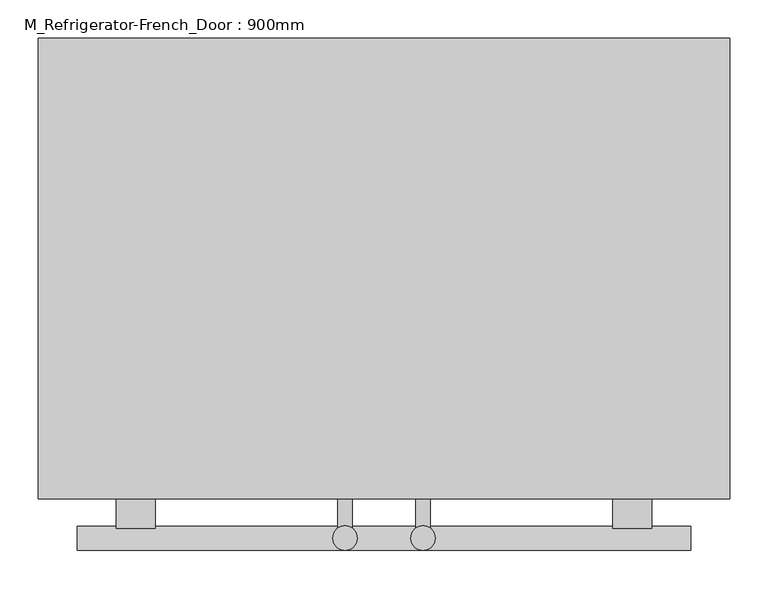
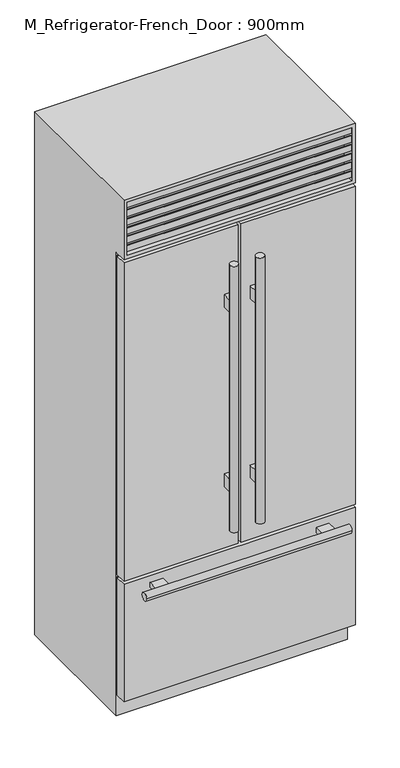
"""IFC4 building model written with IfcOpenShell, lengths in millimetres: proxy geometry, M_Refrigerator-French_Door : 900mm."""

from ifc_helpers import new_model, si_unit, frame, origin, place, context, project, spatial, polyline, circle_curve, ellipse_curve, outline, extrude, faceted_brep, source, transform, mapped, element, save
from ifc_brep_helpers import plane_surface, cylinder_surface, advanced_brep


def m_refrigerator_french_door_900mm_85fdf866(model_context):
    return source(origin(), model_context, "Body", "SolidModel", [
        extrude(outline(polyline([(-649.2, 1918.225), (-696.825, 1930.9860803), (-696.825, 1956.3860803), (-693.65, 1956.3860803), (-693.65, 1933.5368938), (-649.2, 1921.6265522), (-649.2, 1918.225)])), frame((-437.3, 0.0, 0.0), z_axis=(1.0, 0.0, 0.0), x_axis=(0.0, 1.0, 0.0)), (0.0, 0.0, 1.0), 874.6),
        extrude(outline(polyline([(-649.2, 1954.4077839), (-696.825, 1967.1688642), (-696.825, 1992.5688642), (-693.65, 1992.5688642), (-693.65, 1969.7196777), (-649.2, 1957.8093361), (-649.2, 1954.4077839)])), frame((-437.3, 0.0, 0.0), z_axis=(1.0, 0.0, 0.0), x_axis=(0.0, 1.0, 0.0)), (0.0, 0.0, 1.0), 874.6),
        extrude(outline(polyline([(-649.2, 1990.5905679), (-696.825, 2003.3516482), (-696.825, 2028.7516482), (-693.65, 2028.7516482), (-693.65, 2005.9024616), (-649.2, 1993.99212), (-649.2, 1990.5905679)])), frame((-437.3, 0.0, 0.0), z_axis=(1.0, 0.0, 0.0), x_axis=(0.0, 1.0, 0.0)), (0.0, 0.0, 1.0), 874.6),
        extrude(outline(polyline([(-649.2, 2026.7733518), (-696.825, 2039.5344321), (-696.825, 2064.9344321), (-693.65, 2064.9344321), (-693.65, 2042.0852456), (-649.2, 2030.174904), (-649.2, 2026.7733518)])), frame((-437.3, 0.0, 0.0), z_axis=(1.0, 0.0, 0.0), x_axis=(0.0, 1.0, 0.0)), (0.0, 0.0, 1.0), 874.6),
        extrude(outline(polyline([(-649.2, 2062.9561358), (-696.825, 2075.7172161), (-696.825, 2101.1172161), (-693.65, 2101.1172161), (-693.65, 2078.2680295), (-649.2, 2066.3576879), (-649.2, 2062.9561358)])), frame((-437.3, 0.0, 0.0), z_axis=(1.0, 0.0, 0.0), x_axis=(0.0, 1.0, 0.0)), (0.0, 0.0, 1.0), 874.6),
        extrude(outline(polyline([(-649.2, 2099.1389197), (-696.825, 2111.9), (-696.825, 2137.3), (-693.65, 2137.3), (-693.65, 2114.4508135), (-649.2, 2102.5404719), (-649.2, 2099.1389197)])), frame((-437.3, 0.0, 0.0), z_axis=(1.0, 0.0, 0.0), x_axis=(0.0, 1.0, 0.0)), (0.0, 0.0, 1.0), 874.6),
        faceted_brep([(450.0, -700.0, 2150.0), (-450.0, -700.0, 2150.0), (-450.0, -700.0, 1905.525), (450.0, -700.0, 1905.525), (437.3, -700.0, 2137.3), (437.3, -700.0, 1918.225), (-437.3, -700.0, 1918.225), (-437.3, -700.0, 2137.3), (450.0, -100.0, 2150.0), (-450.0, -100.0, 2150.0), (-450.0, -100.0, 0.0), (-450.0, -649.2, 0.0), (-450.0, -649.2, 1905.525), (450.0, -649.2, 1905.525), (450.0, -649.2, 0.0), (450.0, -100.0, 0.0), (-437.3, -649.2, 2137.3), (437.3, -649.2, 2137.3), (-437.3, -649.2, 1918.225), (437.3, -649.2, 1918.225)], [[[0, 1, 2, 3], [4, 5, 6, 7]], [[1, 0, 8, 9]], [[2, 1, 9, 10, 11, 12]], [[3, 2, 12, 13]], [[8, 0, 3, 13, 14, 15]], [[4, 7, 16, 17]], [[7, 6, 18, 16]], [[6, 5, 19, 18]], [[5, 4, 17, 19]], [[15, 14, 11, 10]], [[9, 8, 15, 10]], [[17, 16, 18, 19]], [[11, 14, 13, 12]]]),
        extrude(outline(polyline([(-450.0, -655.55), (-6.35, -655.55), (-6.35, -700.0), (-450.0, -700.0), (-450.0, -655.55)])), frame((0.0, 0.0, 584.2), z_axis=(0.0, 0.0, 1.0), x_axis=(1.0, 0.0, 0.0)), (0.0, 0.0, 1.0), 1308.625),
        extrude(outline(polyline([(6.35, -655.55), (450.0, -655.55), (450.0, -700.0), (6.35, -700.0), (6.35, -655.55)])), frame((0.0, 0.0, 584.2), z_axis=(0.0, 0.0, 1.0), x_axis=(1.0, 0.0, 0.0)), (0.0, 0.0, 1.0), 1308.625),
        extrude(outline(polyline([(-450.0, -655.55), (450.0, -655.55), (450.0, -700.0), (-450.0, -700.0), (-450.0, -655.55)])), frame((0.0, 0.0, 88.9), z_axis=(0.0, 0.0, 1.0), x_axis=(1.0, 0.0, 0.0)), (0.0, 0.0, 1.0), 482.6),
        advanced_brep(
        [(-41.275, -700.0, 1626.125), (-41.275, -700.0, 1575.325), (-60.325, -700.0, 1575.325), (-60.325, -700.0, 1626.125), (-41.275, -700.0, 889.0), (-41.275, -700.0, 838.2), (-60.325, -700.0, 838.2), (-60.325, -700.0, 889.0), (-41.275, -738.4741958, 1626.125), (-41.275, -738.4741958, 1575.325), (-60.325, -738.4741958, 1575.325), (-60.325, -738.4741958, 1626.125), (-41.275, -738.4741958, 889.0), (-41.275, -738.4741958, 838.2), (-60.325, -738.4741958, 838.2), (-60.325, -738.4741958, 889.0), (-66.675, -751.1741958, 1778.525), (-34.925, -751.1741958, 1778.525), (-66.675, -751.1741958, 685.8), (-34.925, -751.1741958, 685.8)],
        [
            (0, 1),
            (1, 2),
            (2, 3),
            (3, 0),
            (4, 5),
            (5, 6),
            (6, 7),
            (7, 4),
            (0, 8),
            (8, 9),
            (9, 1),
            (9, 10, circle_curve(frame((-50.8, -751.1741958, 1575.325), z_axis=(0.0, 0.0, 1.0), x_axis=(1.0, 0.0, 0.0)), 15.875)),
            (10, 2),
            (10, 11),
            (11, 3),
            (11, 8, circle_curve(frame((-50.8, -751.1741958, 1626.125), z_axis=(0.0, 0.0, -1.0), x_axis=(1.0, 0.0, 0.0)), 15.875)),
            (4, 12),
            (12, 13),
            (13, 5),
            (13, 14, circle_curve(frame((-50.8, -751.1741958, 838.2), z_axis=(0.0, 0.0, 1.0), x_axis=(1.0, 0.0, 0.0)), 15.875)),
            (14, 6),
            (14, 15),
            (15, 7),
            (15, 12, circle_curve(frame((-50.8, -751.1741958, 889.0), z_axis=(0.0, 0.0, -1.0), x_axis=(1.0, 0.0, 0.0)), 15.875)),
            (16, 17, circle_curve(frame((-50.8, -751.1741958, 1778.525), z_axis=(0.0, 0.0, 1.0), x_axis=(1.0, 0.0, 0.0)), 15.875)),
            (17, 16, circle_curve(frame((-50.8, -751.1741958, 1778.525), z_axis=(0.0, 0.0, 1.0), x_axis=(1.0, 0.0, 0.0)), 15.875)),
            (18, 19, circle_curve(frame((-50.8, -751.1741958, 685.8), z_axis=(0.0, 0.0, -1.0), x_axis=(1.0, 0.0, 0.0)), 15.875)),
            (19, 18, circle_curve(frame((-50.8, -751.1741958, 685.8), z_axis=(0.0, 0.0, -1.0), x_axis=(1.0, 0.0, 0.0)), 15.875)),
            (16, 18),
            (19, 17),
        ],
        [
            plane_surface(frame((-41.275, -700.0, 1626.125), z_axis=(0.0, 1.0, 0.0), x_axis=(0.0, 0.0, -1.0))),
            plane_surface(frame((-41.275, -700.0, 1626.125), z_axis=(1.0, 0.0, 0.0), x_axis=(0.0, -1.0, 0.0))),
            plane_surface(frame((-41.275, -700.0, 1575.325), z_axis=(0.0, 0.0, -1.0), x_axis=(0.0, -1.0, 0.0))),
            plane_surface(frame((-60.325, -700.0, 1575.325), z_axis=(-1.0, 0.0, 0.0), x_axis=(0.0, -1.0, 0.0))),
            plane_surface(frame((-60.325, -700.0, 1626.125), z_axis=(0.0, 0.0, 1.0), x_axis=(0.0, -1.0, 0.0))),
            plane_surface(frame((-41.275, -700.0, 889.0), z_axis=(1.0, 0.0, 0.0), x_axis=(0.0, -1.0, 0.0))),
            plane_surface(frame((-41.275, -700.0, 838.2), z_axis=(0.0, 0.0, -1.0), x_axis=(0.0, -1.0, 0.0))),
            plane_surface(frame((-60.325, -700.0, 838.2), z_axis=(-1.0, 0.0, 0.0), x_axis=(0.0, -1.0, 0.0))),
            plane_surface(frame((-60.325, -700.0, 889.0), z_axis=(0.0, 0.0, 1.0), x_axis=(0.0, -1.0, 0.0))),
            plane_surface(frame((-34.925, -751.1741958, 1778.525), z_axis=(0.0, 0.0, 1.0), x_axis=(0.0, 1.0, 0.0))),
            plane_surface(frame((-34.925, -751.1741958, 685.8), z_axis=(0.0, 0.0, -1.0), x_axis=(0.0, -1.0, 0.0))),
            cylinder_surface(frame((-50.8, -751.1741958, 685.8), z_axis=(0.0, 0.0, 1.0), x_axis=(1.0, 0.0, 0.0)), 15.875),
        ],
        [
            (0, [[1, 2, 3, 4]]),
            (0, [[5, 6, 7, 8]]),
            (1, [[-1, 9, 10, 11]]),
            (2, [[-2, -11, 12, 13]]),
            (3, [[-3, -13, 14, 15]]),
            (4, [[-4, -15, 16, -9]]),
            (5, [[-5, 17, 18, 19]]),
            (6, [[-6, -19, 20, 21]]),
            (7, [[-7, -21, 22, 23]]),
            (8, [[-8, -23, 24, -17]]),
            (9, [[25, 26]]),
            (10, [[27, 28]]),
            (11, [[-25, 29, -28, 30]]),
            (11, [[-26, -30, -27, -29], [-10, -16, -14, -12], [-18, -24, -22, -20]]),
        ],
    ),
        advanced_brep(
        [(34.925, -751.1741958, 1778.525), (66.675, -751.1741958, 1778.525), (34.925, -751.1741958, 685.8), (66.675, -751.1741958, 685.8), (60.325, -738.4741958, 1575.325), (60.325, -738.4741958, 1626.125), (41.275, -738.4741958, 1626.125), (41.275, -738.4741958, 1575.325), (60.325, -738.4741958, 838.2), (60.325, -738.4741958, 889.0), (41.275, -738.4741958, 889.0), (41.275, -738.4741958, 838.2), (60.325, -700.0, 1626.125), (60.325, -700.0, 1575.325), (41.275, -700.0, 1575.325), (41.275, -700.0, 1626.125), (60.325, -700.0, 889.0), (60.325, -700.0, 838.2), (41.275, -700.0, 838.2), (41.275, -700.0, 889.0)],
        [
            (0, 1, circle_curve(frame((50.8, -751.1741958, 1778.525), z_axis=(0.0, 0.0, 1.0), x_axis=(1.0, 0.0, 0.0)), 15.875)),
            (1, 0, circle_curve(frame((50.8, -751.1741958, 1778.525), z_axis=(0.0, 0.0, 1.0), x_axis=(1.0, 0.0, 0.0)), 15.875)),
            (2, 3, circle_curve(frame((50.8, -751.1741958, 685.8), z_axis=(0.0, 0.0, -1.0), x_axis=(1.0, 0.0, 0.0)), 15.875)),
            (3, 2, circle_curve(frame((50.8, -751.1741958, 685.8), z_axis=(0.0, 0.0, -1.0), x_axis=(1.0, 0.0, 0.0)), 15.875)),
            (0, 2),
            (3, 1),
            (4, 5),
            (5, 6, circle_curve(frame((50.8, -751.1741958, 1626.125), z_axis=(0.0, 0.0, 1.0), x_axis=(1.0, 0.0, 0.0)), 15.875)),
            (6, 7),
            (7, 4, circle_curve(frame((50.8, -751.1741958, 1575.325), z_axis=(0.0, 0.0, -1.0), x_axis=(1.0, 0.0, 0.0)), 15.875)),
            (8, 9),
            (9, 10, circle_curve(frame((50.8, -751.1741958, 889.0), z_axis=(0.0, 0.0, 1.0), x_axis=(1.0, 0.0, 0.0)), 15.875)),
            (10, 11),
            (11, 8, circle_curve(frame((50.8, -751.1741958, 838.2), z_axis=(0.0, 0.0, -1.0), x_axis=(1.0, 0.0, 0.0)), 15.875)),
            (12, 13),
            (13, 14),
            (14, 15),
            (15, 12),
            (16, 17),
            (17, 18),
            (18, 19),
            (19, 16),
            (12, 5),
            (4, 13),
            (7, 14),
            (6, 15),
            (16, 9),
            (8, 17),
            (11, 18),
            (10, 19),
        ],
        [
            plane_surface(frame((66.675, -751.1741958, 1778.525), z_axis=(0.0, 0.0, 1.0), x_axis=(0.0, 1.0, 0.0))),
            plane_surface(frame((66.675, -751.1741958, 685.8), z_axis=(0.0, 0.0, -1.0), x_axis=(0.0, -1.0, 0.0))),
            cylinder_surface(frame((50.8, -751.1741958, 685.8), z_axis=(0.0, 0.0, 1.0), x_axis=(1.0, 0.0, 0.0)), 15.875),
            plane_surface(frame((60.325, -700.0, 1626.125), z_axis=(0.0, 1.0, 0.0), x_axis=(0.0, 0.0, -1.0))),
            plane_surface(frame((60.325, -700.0, 1626.125), z_axis=(1.0, 0.0, 0.0), x_axis=(0.0, -1.0, 0.0))),
            plane_surface(frame((60.325, -700.0, 1575.325), z_axis=(0.0, 0.0, -1.0), x_axis=(0.0, -1.0, 0.0))),
            plane_surface(frame((41.275, -700.0, 1575.325), z_axis=(-1.0, 0.0, 0.0), x_axis=(0.0, -1.0, 0.0))),
            plane_surface(frame((41.275, -700.0, 1626.125), z_axis=(0.0, 0.0, 1.0), x_axis=(0.0, -1.0, 0.0))),
            plane_surface(frame((60.325, -700.0, 889.0), z_axis=(1.0, 0.0, 0.0), x_axis=(0.0, -1.0, 0.0))),
            plane_surface(frame((60.325, -700.0, 838.2), z_axis=(0.0, 0.0, -1.0), x_axis=(0.0, -1.0, 0.0))),
            plane_surface(frame((41.275, -700.0, 838.2), z_axis=(-1.0, 0.0, 0.0), x_axis=(0.0, -1.0, 0.0))),
            plane_surface(frame((41.275, -700.0, 889.0), z_axis=(0.0, 0.0, 1.0), x_axis=(0.0, -1.0, 0.0))),
        ],
        [
            (0, [[1, 2]]),
            (1, [[3, 4]]),
            (2, [[-1, 5, -4, 6]]),
            (2, [[-2, -6, -3, -5], [7, 8, 9, 10], [11, 12, 13, 14]]),
            (3, [[15, 16, 17, 18]]),
            (3, [[19, 20, 21, 22]]),
            (4, [[-15, 23, -7, 24]]),
            (5, [[-16, -24, -10, 25]]),
            (6, [[-17, -25, -9, 26]]),
            (7, [[-18, -26, -8, -23]]),
            (8, [[-19, 27, -11, 28]]),
            (9, [[-20, -28, -14, 29]]),
            (10, [[-21, -29, -13, 30]]),
            (11, [[-22, -30, -12, -27]]),
        ],
    ),
        advanced_brep(
        [(-297.6, -700.0, 542.925), (-297.6, -700.0, 523.875), (-348.4, -700.0, 523.875), (-348.4, -700.0, 542.925), (297.6, -700.0, 542.925), (348.4, -700.0, 542.925), (348.4, -700.0, 523.875), (297.6, -700.0, 523.875), (-297.6, -738.4741958, 542.925), (-297.6, -735.2991958, 533.4), (-297.6, -738.4741958, 523.875), (-348.4, -738.4741958, 523.875), (-348.4, -735.2991958, 533.4), (-348.4, -738.4741958, 542.925), (297.6, -738.4741958, 542.925), (348.4, -738.4741958, 542.925), (348.4, -735.2991958, 533.4), (348.4, -738.4741958, 523.875), (297.6, -738.4741958, 523.875), (297.6, -735.2991958, 533.4), (399.2, -767.0491958, 533.4), (399.2, -735.2991958, 533.4), (-399.2, -767.0491958, 533.4), (-399.2, -735.2991958, 533.4)],
        [
            (0, 1),
            (1, 2),
            (2, 3),
            (3, 0),
            (4, 5),
            (5, 6),
            (6, 7),
            (7, 4),
            (0, 8),
            (8, 9, circle_curve(frame((-297.6, -751.1741958, 533.4), z_axis=(-1.0, 0.0, 0.0), x_axis=(0.0, 1.0, 0.0)), 15.875)),
            (9, 10, circle_curve(frame((-297.6, -751.1741958, 533.4), z_axis=(-1.0, 0.0, 0.0), x_axis=(0.0, 1.0, 0.0)), 15.875)),
            (10, 1),
            (10, 11),
            (11, 2),
            (11, 12, circle_curve(frame((-348.4, -751.1741958, 533.4), z_axis=(1.0, 0.0, 0.0), x_axis=(0.0, 1.0, 0.0)), 15.875)),
            (12, 13, circle_curve(frame((-348.4, -751.1741958, 533.4), z_axis=(1.0, 0.0, 0.0), x_axis=(0.0, 1.0, 0.0)), 15.875)),
            (13, 3),
            (13, 8),
            (4, 14),
            (14, 15),
            (15, 5),
            (15, 16, circle_curve(frame((348.4, -751.1741958, 533.4), z_axis=(-1.0, 0.0, 0.0), x_axis=(0.0, 1.0, 0.0)), 15.875)),
            (16, 17, circle_curve(frame((348.4, -751.1741958, 533.4), z_axis=(-1.0, 0.0, 0.0), x_axis=(0.0, 1.0, 0.0)), 15.875)),
            (17, 6),
            (17, 18),
            (18, 7),
            (18, 19, circle_curve(frame((297.6, -751.1741958, 533.4), z_axis=(1.0, 0.0, 0.0), x_axis=(0.0, 1.0, 0.0)), 15.875)),
            (19, 14, circle_curve(frame((297.6, -751.1741958, 533.4), z_axis=(1.0, 0.0, 0.0), x_axis=(0.0, 1.0, 0.0)), 15.875)),
            (20, 21, circle_curve(frame((399.2, -751.1741958, 533.4), z_axis=(1.0, 0.0, 0.0), x_axis=(0.0, 1.0, 0.0)), 15.875)),
            (21, 20, circle_curve(frame((399.2, -751.1741958, 533.4), z_axis=(1.0, 0.0, 0.0), x_axis=(0.0, 1.0, 0.0)), 15.875)),
            (22, 23, circle_curve(frame((-399.2, -751.1741958, 533.4), z_axis=(-1.0, 0.0, 0.0), x_axis=(0.0, 1.0, 0.0)), 15.875)),
            (23, 22, circle_curve(frame((-399.2, -751.1741958, 533.4), z_axis=(-1.0, 0.0, 0.0), x_axis=(0.0, 1.0, 0.0)), 15.875)),
            (20, 22),
            (23, 12),
            (9, 19),
            (16, 21),
        ],
        [
            plane_surface(frame((-297.6, -700.0, 542.925), z_axis=(0.0, 1.0, 0.0), x_axis=(0.0, 0.0, -1.0))),
            plane_surface(frame((-297.6, -700.0, 542.925), z_axis=(1.0, 0.0, 0.0), x_axis=(0.0, -1.0, 0.0))),
            plane_surface(frame((-297.6, -700.0, 523.875), z_axis=(0.0, 0.0, -1.0), x_axis=(0.0, -1.0, 0.0))),
            plane_surface(frame((-348.4, -700.0, 523.875), z_axis=(-1.0, 0.0, 0.0), x_axis=(0.0, -1.0, 0.0))),
            plane_surface(frame((-348.4, -700.0, 542.925), z_axis=(0.0, 0.0, 1.0), x_axis=(0.0, -1.0, 0.0))),
            plane_surface(frame((297.6, -700.0, 542.925), z_axis=(0.0, 0.0, 1.0), x_axis=(0.0, -1.0, 0.0))),
            plane_surface(frame((348.4, -700.0, 542.925), z_axis=(1.0, 0.0, 0.0), x_axis=(0.0, -1.0, 0.0))),
            plane_surface(frame((348.4, -700.0, 523.875), z_axis=(0.0, 0.0, -1.0), x_axis=(0.0, -1.0, 0.0))),
            plane_surface(frame((297.6, -700.0, 523.875), z_axis=(-1.0, 0.0, 0.0), x_axis=(0.0, -1.0, 0.0))),
            plane_surface(frame((399.2, -735.2991958, 533.4), z_axis=(1.0, 0.0, 0.0), x_axis=(0.0, 0.0, 1.0))),
            plane_surface(frame((-399.2, -735.2991958, 533.4), z_axis=(-1.0, 0.0, 0.0), x_axis=(0.0, 0.0, -1.0))),
            cylinder_surface(frame((-399.2, -751.1741958, 533.4), z_axis=(1.0, 0.0, 0.0), x_axis=(0.0, 1.0, 0.0)), 15.875),
        ],
        [
            (0, [[1, 2, 3, 4]]),
            (0, [[5, 6, 7, 8]]),
            (1, [[-1, 9, 10, 11, 12]]),
            (2, [[-2, -12, 13, 14]]),
            (3, [[-3, -14, 15, 16, 17]]),
            (4, [[-4, -17, 18, -9]]),
            (5, [[-5, 19, 20, 21]]),
            (6, [[-6, -21, 22, 23, 24]]),
            (7, [[-7, -24, 25, 26]]),
            (8, [[-8, -26, 27, 28, -19]]),
            (9, [[29, 30]]),
            (10, [[31, 32]]),
            (11, [[-29, 33, -32, 34, -15, -13, -11, 35, -27, -25, -23, 36]]),
            (11, [[-30, -36, -22, -20, -28, -35, -10, -18, -16, -34, -31, -33]]),
        ],
    ),
        advanced_brep(
        [(-443.65, -649.2, 1886.475), (-443.65, -655.55, 1886.475), (-443.65, -655.55, 590.55), (-443.65, -649.2, 590.55), (-446.825, -655.55, 1889.65), (-446.825, -649.2, 1889.65), (-446.825, -649.2, 587.375), (-446.825, -655.55, 587.375), (-12.7, -655.55, 590.55), (-12.7, -649.2, 590.55), (-9.525, -649.2, 587.375), (-9.525, -655.55, 587.375), (-12.7, -655.55, 1886.475), (-12.7, -649.2, 1886.475), (-9.525, -649.2, 1889.65), (-9.525, -655.55, 1889.65)],
        [
            (0, 1),
            (1, 2),
            (2, 3),
            (3, 0),
            (4, 5, ellipse_curve(frame((-446.825, -652.375, 1889.65), z_axis=(-0.7071067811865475, 0.0, -0.7071067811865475), x_axis=(-0.7071067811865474, 0.0, 0.7071067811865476)), 4.4901281, 3.175)),
            (5, 6),
            (6, 7, ellipse_curve(frame((-446.825, -652.375, 587.375), z_axis=(-0.7071067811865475, 0.0, 0.7071067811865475), x_axis=(0.7071067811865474, 0.0, 0.7071067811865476)), 4.4901281, 3.175)),
            (7, 4),
            (2, 8),
            (8, 9),
            (9, 3),
            (6, 10),
            (10, 11, ellipse_curve(frame((-9.525, -652.375, 587.375), z_axis=(-0.7071067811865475, 0.0, -0.7071067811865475), x_axis=(-0.7071067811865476, 0.0, 0.7071067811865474)), 4.4901281, 3.175)),
            (11, 7),
            (8, 12),
            (12, 13),
            (13, 9),
            (10, 14),
            (14, 15, ellipse_curve(frame((-9.525, -652.375, 1889.65), z_axis=(0.7071067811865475, 0.0, -0.7071067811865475), x_axis=(-0.7071067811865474, 0.0, -0.7071067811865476)), 4.4901281, 3.175)),
            (15, 11),
            (12, 1),
            (0, 13),
            (5, 14),
            (4, 15),
        ],
        [
            plane_surface(frame((-443.65, -655.55, 1886.475), z_axis=(1.0, 0.0, 0.0), x_axis=(0.0, 0.0, -1.0))),
            cylinder_surface(frame((-446.825, -652.375, 1892.825), z_axis=(0.0, 0.0, 1.0), x_axis=(0.0, -1.0, 0.0)), 3.175),
            plane_surface(frame((-443.65, -655.55, 590.55), z_axis=(0.0, 0.0, 1.0), x_axis=(1.0, 0.0, 0.0))),
            cylinder_surface(frame((-450.0, -652.375, 587.375), z_axis=(-1.0, 0.0, 0.0), x_axis=(0.0, -1.0, 0.0)), 3.175),
            plane_surface(frame((-12.7, -655.55, 590.55), z_axis=(-1.0, 0.0, 0.0), x_axis=(0.0, 0.0, 1.0))),
            cylinder_surface(frame((-9.525, -652.375, 584.2), z_axis=(0.0, 0.0, -1.0), x_axis=(0.0, -1.0, 0.0)), 3.175),
            plane_surface(frame((-12.7, -655.55, 1886.475), z_axis=(0.0, 0.0, -1.0), x_axis=(-1.0, 0.0, 0.0))),
            plane_surface(frame((-12.7, -649.2, 1886.475), z_axis=(0.0, 1.0, 0.0), x_axis=(-1.0, 0.0, 0.0))),
            cylinder_surface(frame((-6.35, -652.375, 1889.65), z_axis=(1.0, 0.0, 0.0), x_axis=(0.0, -1.0, 0.0)), 3.175),
            plane_surface(frame((-9.525, -655.55, 1889.65), z_axis=(0.0, -1.0, 0.0), x_axis=(-1.0, 0.0, 0.0))),
        ],
        [
            (0, [[1, 2, 3, 4]]),
            (1, [[5, 6, 7, 8]]),
            (2, [[-3, 9, 10, 11]]),
            (3, [[-7, 12, 13, 14]]),
            (4, [[-10, 15, 16, 17]]),
            (5, [[-13, 18, 19, 20]]),
            (6, [[-16, 21, -1, 22]]),
            (7, [[23, -18, -12, -6], [-11, -17, -22, -4]]),
            (8, [[-19, -23, -5, 24]]),
            (9, [[-14, -20, -24, -8], [-21, -15, -9, -2]]),
        ],
    ),
        advanced_brep(
        [(12.7, -649.2, 1886.475), (12.7, -655.55, 1886.475), (12.7, -655.55, 590.55), (12.7, -649.2, 590.55), (9.525, -655.55, 1889.65), (9.525, -649.2, 1889.65), (9.525, -649.2, 587.375), (9.525, -655.55, 587.375), (443.65, -655.55, 590.55), (443.65, -649.2, 590.55), (446.825, -649.2, 587.375), (446.825, -655.55, 587.375), (443.65, -655.55, 1886.475), (443.65, -649.2, 1886.475), (446.825, -649.2, 1889.65), (446.825, -655.55, 1889.65)],
        [
            (0, 1),
            (1, 2),
            (2, 3),
            (3, 0),
            (4, 5, ellipse_curve(frame((9.525, -652.375, 1889.65), z_axis=(-0.7071067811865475, 0.0, -0.7071067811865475), x_axis=(-0.7071067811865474, 0.0, 0.7071067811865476)), 4.4901281, 3.175)),
            (5, 6),
            (6, 7, ellipse_curve(frame((9.525, -652.375, 587.375), z_axis=(-0.7071067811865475, 0.0, 0.7071067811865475), x_axis=(0.7071067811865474, 0.0, 0.7071067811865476)), 4.4901281, 3.175)),
            (7, 4),
            (2, 8),
            (8, 9),
            (9, 3),
            (6, 10),
            (10, 11, ellipse_curve(frame((446.825, -652.375, 587.375), z_axis=(-0.7071067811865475, 0.0, -0.7071067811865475), x_axis=(-0.7071067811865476, 0.0, 0.7071067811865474)), 4.4901281, 3.175)),
            (11, 7),
            (8, 12),
            (12, 13),
            (13, 9),
            (10, 14),
            (14, 15, ellipse_curve(frame((446.825, -652.375, 1889.65), z_axis=(0.7071067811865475, 0.0, -0.7071067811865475), x_axis=(-0.7071067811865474, 0.0, -0.7071067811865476)), 4.4901281, 3.175)),
            (15, 11),
            (12, 1),
            (0, 13),
            (5, 14),
            (4, 15),
        ],
        [
            plane_surface(frame((12.7, -655.55, 1886.475), z_axis=(1.0, 0.0, 0.0), x_axis=(0.0, 0.0, -1.0))),
            cylinder_surface(frame((9.525, -652.375, 1892.825), z_axis=(0.0, 0.0, 1.0), x_axis=(0.0, -1.0, 0.0)), 3.175),
            plane_surface(frame((12.7, -655.55, 590.55), z_axis=(0.0, 0.0, 1.0), x_axis=(1.0, 0.0, 0.0))),
            cylinder_surface(frame((6.35, -652.375, 587.375), z_axis=(-1.0, 0.0, 0.0), x_axis=(0.0, -1.0, 0.0)), 3.175),
            plane_surface(frame((443.65, -655.55, 590.55), z_axis=(-1.0, 0.0, 0.0), x_axis=(0.0, 0.0, 1.0))),
            cylinder_surface(frame((446.825, -652.375, 584.2), z_axis=(0.0, 0.0, -1.0), x_axis=(0.0, -1.0, 0.0)), 3.175),
            plane_surface(frame((443.65, -655.55, 1886.475), z_axis=(0.0, 0.0, -1.0), x_axis=(-1.0, 0.0, 0.0))),
            plane_surface(frame((443.65, -649.2, 1886.475), z_axis=(0.0, 1.0, 0.0), x_axis=(-1.0, 0.0, 0.0))),
            cylinder_surface(frame((450.0, -652.375, 1889.65), z_axis=(1.0, 0.0, 0.0), x_axis=(0.0, -1.0, 0.0)), 3.175),
            plane_surface(frame((446.825, -655.55, 1889.65), z_axis=(0.0, -1.0, 0.0), x_axis=(-1.0, 0.0, 0.0))),
        ],
        [
            (0, [[1, 2, 3, 4]]),
            (1, [[5, 6, 7, 8]]),
            (2, [[-3, 9, 10, 11]]),
            (3, [[-7, 12, 13, 14]]),
            (4, [[-10, 15, 16, 17]]),
            (5, [[-13, 18, 19, 20]]),
            (6, [[-16, 21, -1, 22]]),
            (7, [[23, -18, -12, -6], [-11, -17, -22, -4]]),
            (8, [[-19, -23, -5, 24]]),
            (9, [[-14, -20, -24, -8], [-21, -15, -9, -2]]),
        ],
    ),
        advanced_brep(
        [(-443.65, -649.2, 565.15), (-443.65, -655.55, 565.15), (-443.65, -655.55, 95.25), (-443.65, -649.2, 95.25), (-446.825, -655.55, 568.325), (-446.825, -649.2, 568.325), (-446.825, -649.2, 92.075), (-446.825, -655.55, 92.075), (443.65, -655.55, 95.25), (443.65, -649.2, 95.25), (446.825, -649.2, 92.075), (446.825, -655.55, 92.075), (443.65, -655.55, 565.15), (443.65, -649.2, 565.15), (446.825, -649.2, 568.325), (446.825, -655.55, 568.325)],
        [
            (0, 1),
            (1, 2),
            (2, 3),
            (3, 0),
            (4, 5, ellipse_curve(frame((-446.825, -652.375, 568.325), z_axis=(-0.7071067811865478, 0.0, -0.7071067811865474), x_axis=(-0.7071067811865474, 0.0, 0.7071067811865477)), 4.4901281, 3.175)),
            (5, 6),
            (6, 7, ellipse_curve(frame((-446.825, -652.375, 92.075), z_axis=(-0.7071067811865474, 0.0, 0.7071067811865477), x_axis=(0.7071067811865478, 0.0, 0.7071067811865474)), 4.4901281, 3.175)),
            (7, 4),
            (2, 8),
            (8, 9),
            (9, 3),
            (6, 10),
            (10, 11, ellipse_curve(frame((446.825, -652.375, 92.075), z_axis=(-0.7071067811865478, 0.0, -0.7071067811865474), x_axis=(-0.7071067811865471, 0.0, 0.7071067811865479)), 4.4901281, 3.175)),
            (11, 7),
            (8, 12),
            (12, 13),
            (13, 9),
            (10, 14),
            (14, 15, ellipse_curve(frame((446.825, -652.375, 568.325), z_axis=(0.7071067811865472, 0.0, -0.7071067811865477), x_axis=(-0.7071067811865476, 0.0, -0.7071067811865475)), 4.4901281, 3.175)),
            (15, 11),
            (12, 1),
            (0, 13),
            (5, 14),
            (4, 15),
        ],
        [
            plane_surface(frame((-443.65, -655.55, 565.15), z_axis=(1.0, 0.0, 0.0), x_axis=(0.0, 0.0, -1.0))),
            cylinder_surface(frame((-446.825, -652.375, 571.5), z_axis=(0.0, 0.0, 1.0), x_axis=(0.0, -1.0, 0.0)), 3.175),
            plane_surface(frame((-443.65, -655.55, 95.25), z_axis=(0.0, 0.0, 1.0), x_axis=(1.0, 0.0, 0.0))),
            cylinder_surface(frame((-450.0, -652.375, 92.075), z_axis=(-1.0, 0.0, 0.0), x_axis=(0.0, -1.0, 0.0)), 3.175),
            plane_surface(frame((443.65, -655.55, 95.25), z_axis=(-1.0, 0.0, 0.0), x_axis=(0.0, 0.0, 1.0))),
            cylinder_surface(frame((446.825, -652.375, 88.9), z_axis=(0.0, 0.0, -1.0), x_axis=(0.0, -1.0, 0.0)), 3.175),
            plane_surface(frame((443.65, -655.55, 565.15), z_axis=(0.0, 0.0, -1.0), x_axis=(-1.0, 0.0, 0.0))),
            plane_surface(frame((443.65, -649.2, 565.15), z_axis=(0.0, 1.0, 0.0), x_axis=(-1.0, 0.0, 0.0))),
            cylinder_surface(frame((450.0, -652.375, 568.325), z_axis=(1.0, 0.0, 0.0), x_axis=(0.0, -1.0, 0.0)), 3.175),
            plane_surface(frame((446.825, -655.55, 568.325), z_axis=(0.0, -1.0, 0.0), x_axis=(-1.0, 0.0, 0.0))),
        ],
        [
            (0, [[1, 2, 3, 4]]),
            (1, [[5, 6, 7, 8]]),
            (2, [[-3, 9, 10, 11]]),
            (3, [[-7, 12, 13, 14]]),
            (4, [[-10, 15, 16, 17]]),
            (5, [[-13, 18, 19, 20]]),
            (6, [[-16, 21, -1, 22]]),
            (7, [[23, -18, -12, -6], [-11, -17, -22, -4]]),
            (8, [[-19, -23, -5, 24]]),
            (9, [[-14, -20, -24, -8], [-21, -15, -9, -2]]),
        ],
    ),
    ])


if __name__ == "__main__":
    model = new_model("IFC4")
    model_context = context("Model", 3, world=origin())
    ifc_project = project(units=[si_unit("LENGTHUNIT", "METRE", prefix="MILLI")], contexts=[model_context])
    site = spatial("IfcSite", under=ifc_project)
    building = spatial("IfcBuilding", under=site)
    placement = place(None, origin())
    m_refrigerator_french_door_900mm_shape = m_refrigerator_french_door_900mm_85fdf866(model_context)
    element("IfcBuildingElementProxy", 1, Name="M_Refrigerator-French_Door : 900mm", ObjectType="M_Refrigerator-French_Door : 900mm", at=placement, inside=building, context=model_context, shape_type="MappedRepresentation", body=[
        mapped(m_refrigerator_french_door_900mm_shape, transform((0.0, 0.0, 0.0), x_axis=(1.0, 0.0, 0.0), y_axis=(0.0, 1.0, 0.0), z_axis=(0.0, 0.0, 1.0))),
    ])
    save(model, "model.ifc")
